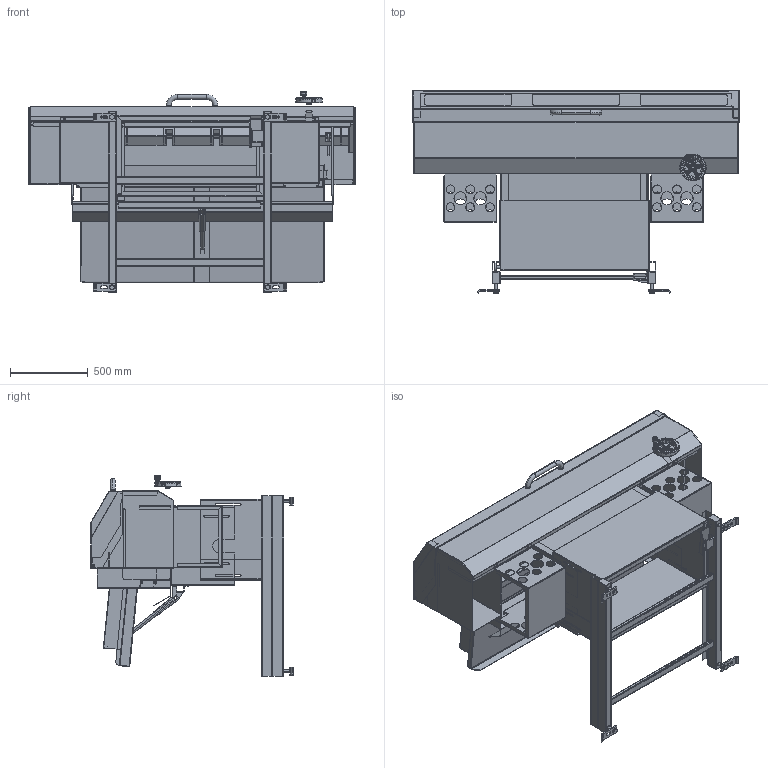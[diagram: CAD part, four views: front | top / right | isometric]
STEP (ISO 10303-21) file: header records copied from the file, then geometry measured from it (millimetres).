
FILE_DESCRIPTION (( 'STEP AP214' ), '1' );
FILE_NAME ('Haas_Bar_Feeder_2015+_STEP_2019-12.STEP', '2019-11-26T22:10:25', ( '' ), ( '' ), 'SwSTEP 2.0', 'SolidWorks 2019', '' );
FILE_SCHEMA (( 'AUTOMOTIVE_DESIGN' ));
Length unit declared in the file: inch
Products named in the file (39): 10000027422; 10000027130; 10000027425; 10000083204; 10000027474; 10000027785; 10000027646; 10000027364; 10000027434; 10000027432; 10000122886; 10000095878; 10000095871; 10000027359_Default<As Machined>; 22-8895; 30-30467; 10000027427; 10000038322; 10000027651; 10000027435; 22-8895_01; 10000027424; 10000027549; 20-4426A; 10000027423; 20-10256A; 51-2025; 10000027550; 10000027421; 22-8895_02; 10000027192; Bar Feeder base; 10000027428; 10000021209; 10000027541; 10000027436; Haas_Bar_Feeder_2015+_STEP_2019-12; 10000027727; 10000027538
Assembly tree (45 placements, depth 3):
  10000021209
  Haas_Bar_Feeder_2015+_STEP_2019-12
    Bar Feeder base
    10000122886  x2
    51-2025  x2
    10000027130  x2
    10000027538
    10000027785
    30-30467
      20-10256A
      20-4426A
    10000027364
    10000095871  x2
    10000095878
    22-8895
      22-8895_01
      22-8895_02  x2
    10000027436
      10000027434
      10000027435
      10000027651
    10000027425
      10000027424
      10000027423
      10000027422
      10000027421  x2
    10000027474
    10000027428
      10000027427
    10000027432
    10000027727
    10000027646
    10000027541
    10000027549
    10000027550
    10000027359_Default<As Machined>
    10000027192  x2
    10000038322
    10000083204  x2
Bounding box: 2091.79 x 1297.89 x 1288.44 mm (x, y, z)
Volume: 49903067.3 mm3; surface area: 26306849.9 mm2
Topology: 76 solids, 76 shells, 3465 faces, 8085 edges, 4772 vertices
Faces by surface type: plane 1615, cylinder 864, bspline 441, torus 288, cone 160, sphere 97
Entity records: 114699 total; most frequent: CARTESIAN_POINT 36743, ORIENTED_EDGE 14332, DIRECTION 14280, EDGE_CURVE 7166, AXIS2_PLACEMENT_3D 5325, VERTEX_POINT 4246, VECTOR 3630, LINE 3630
